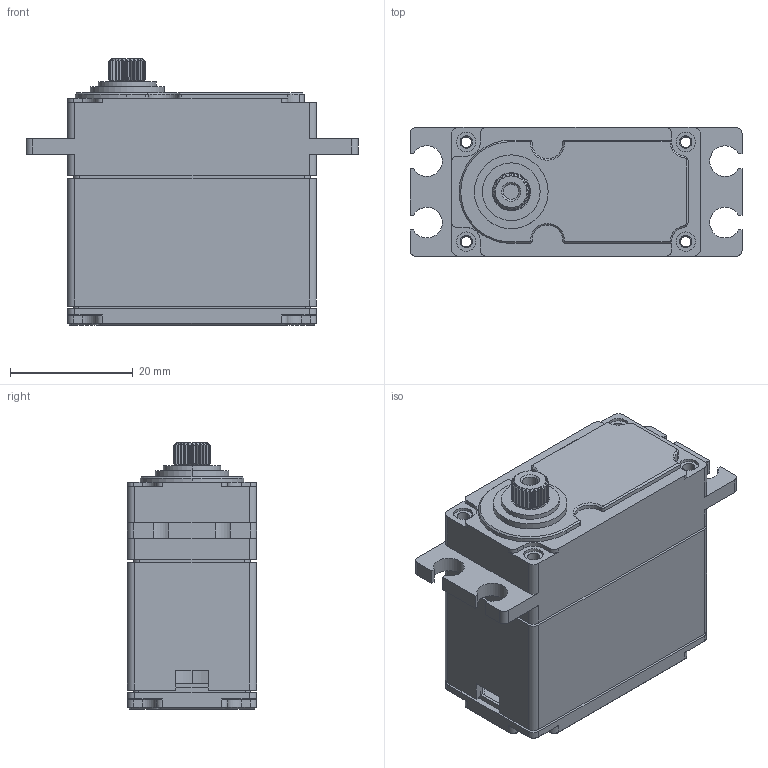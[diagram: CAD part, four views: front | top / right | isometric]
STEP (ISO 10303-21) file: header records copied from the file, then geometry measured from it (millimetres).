
FILE_DESCRIPTION (( 'STEP AP214' ), '1' );
FILE_NAME ('KST-MS35019_DM.STEP', '2020-07-03T09:51:45', ( '微软用户' ), ( '微软中国' ), 'SwSTEP 2.0', 'SolidWorks 2016', '' );
FILE_SCHEMA (( 'AUTOMOTIVE_DESIGN' ));
Length unit declared in the file: millimetre
Products named in the file (2): KST-MS35019_DM
Bounding box: 54 x 21 x 43.3 mm (x, y, z)
Volume: 12623.7 mm3; surface area: 16113.7 mm2
Topology: 2 solids, 2 shells, 745 faces, 2060 edges, 1341 vertices
Faces by surface type: cylinder 333, plane 264, bspline 80, cone 68
Entity records: 31709 total; most frequent: CARTESIAN_POINT 12856, ORIENTED_EDGE 4120, DIRECTION 3751, EDGE_CURVE 2060, AXIS2_PLACEMENT_3D 1372, VERTEX_POINT 1341, VECTOR 1007, LINE 1007
